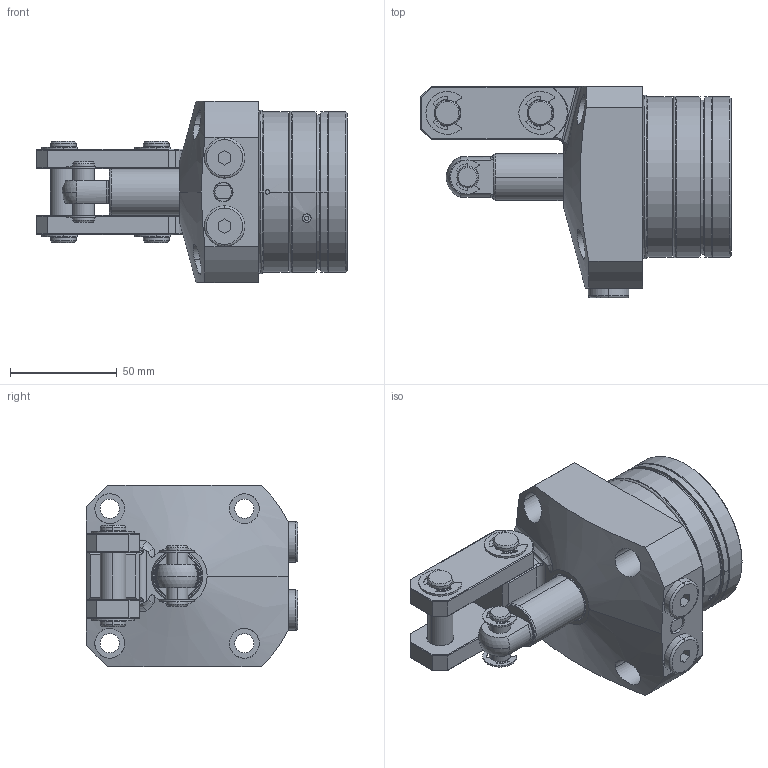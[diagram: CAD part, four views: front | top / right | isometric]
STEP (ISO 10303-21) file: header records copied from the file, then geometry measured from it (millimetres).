
FILE_DESCRIPTION(/* description */ (''),/* implementation_level */ '2;1');
FILE_NAME(/* name */ 'KTPW75-FH.stp',/* time_stamp */ '2022-11-19T16:58:32+08:00',/* author */ (''),/* organization */ (''),/* preprocessor_version */ 'ST-DEVELOPER v16.7',/* originating_system */ 'SIEMENS PLM Software NX 12.0',/* authorisation */ '');
FILE_SCHEMA (('AP203_CONFIGURATION_CONTROLLED_3D_DESIGN_OF_MECHANICAL_PARTS_AND_ASSEMBLIES_MIM_LF { 1 0 10303 403 2 1 2}'));
Length unit declared in the file: millimetre
Products named in the file (11): KTPW75-FH-06; KTPW75-FH-09; KTPW75-FH-01; KTPW75-FH-03; KTPW75-FH-05; KTPW75-FH-07; KTPW75-FH-04; KTPW75-FH-02; KTPW75-FH-08; KTPW75-FH-010; KTPC75-FH_stp
Assembly tree (19 placements, depth 2):
  KTPC75-FH_stp
    KTPW75-FH-010  x3
    KTPW75-FH-08  x4
    KTPW75-FH-02
    KTPW75-FH-04  x2
    KTPW75-FH-07  x2
    KTPW75-FH-05  x2
    KTPW75-FH-03
    KTPW75-FH-01
    KTPW75-FH-09  x2
    KTPW75-FH-06
Bounding box: 145.5 x 99 x 85 mm (x, y, z)
Volume: 471930.7 mm3; surface area: 82790.3 mm2
Topology: 21 solids, 21 shells, 689 faces, 1599 edges, 992 vertices
Faces by surface type: cylinder 294, plane 178, torus 128, cone 77, bspline 10, sphere 2
Full cylindrical faces by diameter (mm): 75 x1
Entity records: 14418 total; most frequent: CARTESIAN_POINT 3112, DIRECTION 2245, ORIENTED_EDGE 1914, EDGE_CURVE 957, AXIS2_PLACEMENT_3D 945, VERTEX_POINT 590, CIRCLE 511, EDGE_LOOP 479
